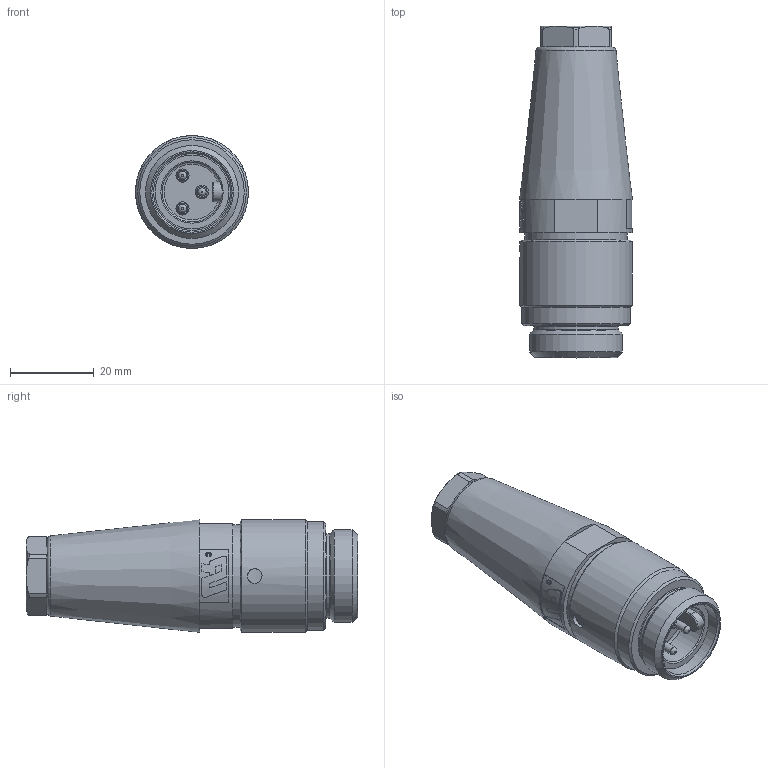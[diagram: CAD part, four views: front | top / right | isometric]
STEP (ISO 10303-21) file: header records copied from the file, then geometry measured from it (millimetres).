
FILE_DESCRIPTION( ( 'Unknown' ), '1' );
FILE_NAME( 'C:/Daten/3d_Daten/000-531-A01_3POL_PG9.stp', 'Unknown', ( 'Unknown' ), ( 'Unknown' ), 'PSStep 10.1', 'Unknown', ' ' );
FILE_SCHEMA( ( 'AUTOMOTIVE_DESIGN { 1 0 10303 214 1 1 1 1 }' ) );
Length unit declared in the file: millimetre
Products named in the file (1): 000-531-C01_1_1_000133995DNR
Bounding box: 27 x 79.4 x 27 mm (x, y, z)
Volume: 33717.9 mm3; surface area: 9008.2 mm2
Topology: 1 solids, 1 shells, 136 faces, 317 edges, 199 vertices
Faces by surface type: plane 63, cylinder 33, cone 18, torus 13, extrusion 6, bspline 3
Full cylindrical faces by diameter (mm): 1.99 x3, 3.15 x3, 3.5 x1, 17.7 x1, 18.4 x1, 19.8 x1, 20.2 x1, 20.262 x1, 22.225 x1, 24.5 x1, 26 x1, 27 x1
Entity records: 5811 total; most frequent: CARTESIAN_POINT 1818, DIRECTION 622, ORIENTED_EDGE 536, EDGE_CURVE 268, AXIS2_PLACEMENT_3D 265, EDGE_LOOP 187, VERTEX_POINT 185, FACE_OUTER_BOUND 159
